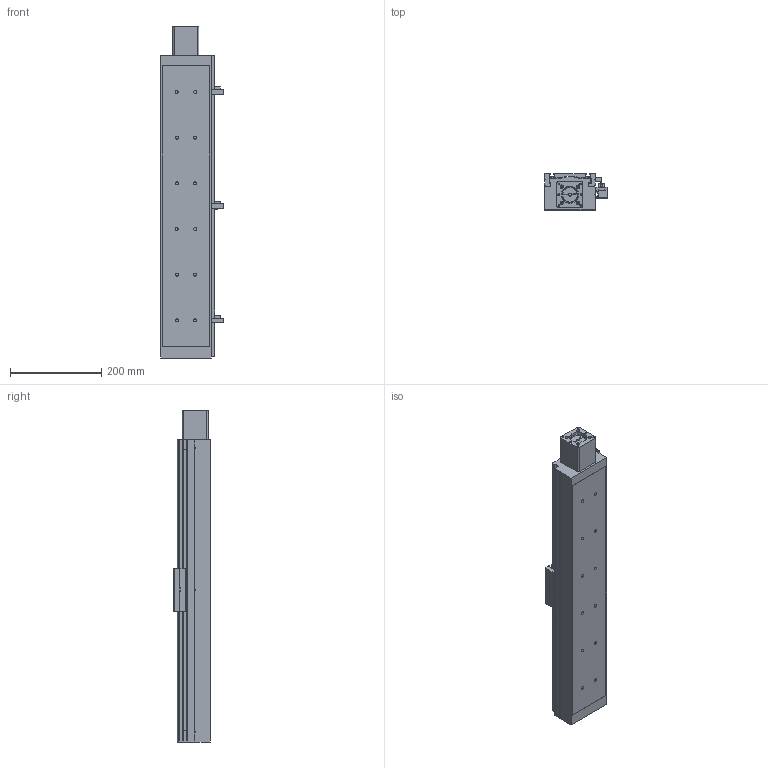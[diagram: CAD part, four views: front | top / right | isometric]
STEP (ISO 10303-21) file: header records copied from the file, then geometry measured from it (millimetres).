
FILE_DESCRIPTION((''),'2;1');
FILE_NAME('E:\libraries\UIA actuator library 2009\standard actuator\UIA110R12(15)DC\UIA110R12(15)DC-ball screw dia.20\UIA110R12(15)DC-_ _ _-R20_ _-M23 step file 20Apr16\UIA110R12(15)DC-500-R20_ _-M23-P13-C10-S.stp','2016-04-21T11:20:53',('h029'),(''),'Autodesk Inventor 11','Autodesk Inventor 11','');
FILE_SCHEMA(('AUTOMOTIVE_DESIGN { 1 0 10303 214 1 1 1 1 }'));
Length unit declared in the file: millimetre
Products named in the file (10): UIA110R12(15)DC-500, ball screw dia.20; body, UIA110R12(15)DC-500,ball screw dia.20; Carriage, UIA110R12(15)DC; Sen Switch, UIA110R12(15)DC; sensor rail, UIA110R12(15)DC-500; SOH-32C; SOH-32C-3; SOH-32C-1; SOH-32C-2; M23 motor mount
Assembly tree (9 placements, depth 3):
  UIA110R12(15)DC-500, ball screw dia.20
    body, UIA110R12(15)DC-500,ball screw dia.20
    Carriage, UIA110R12(15)DC
    Sen Switch, UIA110R12(15)DC
    sensor rail, UIA110R12(15)DC-500
    SOH-32C
      SOH-32C-3
      SOH-32C-1
      SOH-32C-2
    M23 motor mount
Bounding box: 136.5 x 81 x 727 mm (x, y, z)
Volume: 5135941.3 mm3; surface area: 438529.4 mm2
Topology: 8 solids, 8 shells, 603 faces, 1629 edges, 1064 vertices
Faces by surface type: plane 381, cylinder 123, bspline 81, cone 18
Full cylindrical faces by diameter (mm): 2.459 x3, 3.242 x4, 4 x6, 4.5 x4, 5.5 x3, 6.35 x1, 6.5 x12, 7.5 x4, 9.5 x6, 10 x2, 10.5 x12, 12 x1, 25 x1, 32 x3, 37 x1, 38.1 x1, 42 x1, 42.01 x1, 43.5 x1
Entity records: 19444 total; most frequent: CARTESIAN_POINT 4969, DIRECTION 2901, ORIENTED_EDGE 2808, EDGE_CURVE 1404, VERTEX_POINT 991, AXIS2_PLACEMENT_3D 975, VECTOR 951, LINE 951
